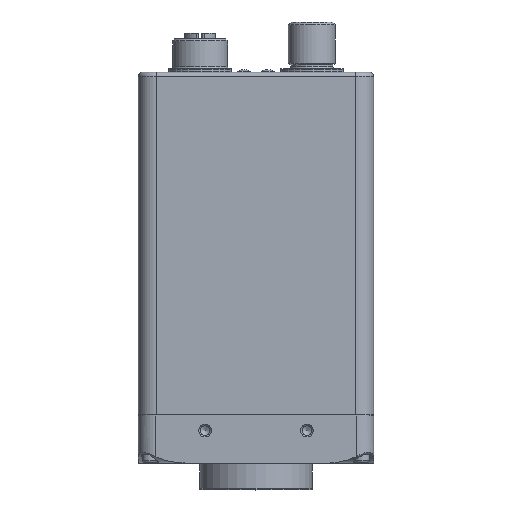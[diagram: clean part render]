
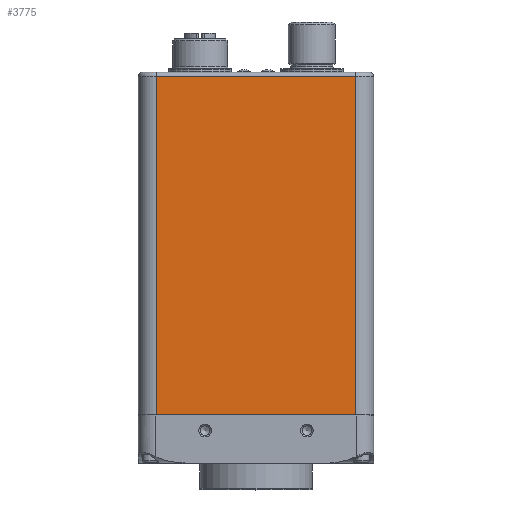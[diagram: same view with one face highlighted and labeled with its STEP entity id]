
A CAD part, top view. The second image highlights one B-rep face of the part: STEP entity #3775.
In plain terms, the highlighted planar face has unit normal (0, 0, 1).
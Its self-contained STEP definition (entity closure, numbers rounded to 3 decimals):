
#3775 = ADVANCED_FACE( '', ( #8386 ), #8387, .F. );
#8386 = FACE_OUTER_BOUND( '', #14684, .T. );
#8387 = PLANE( '', #14685 );
#14684 = EDGE_LOOP( '', ( #25927, #25928, #25929, #25930 ) );
#14685 = AXIS2_PLACEMENT_3D( '', #25931, #25932, #25933 );
#25927 = ORIENTED_EDGE( '', *, *, #32807, .F. );
#25928 = ORIENTED_EDGE( '', *, *, #32511, .T. );
#25929 = ORIENTED_EDGE( '', *, *, #30702, .T. );
#25930 = ORIENTED_EDGE( '', *, *, #32808, .T. );
#25931 = CARTESIAN_POINT( '', ( -25.488, 87.375, 29.988 ) );
#25932 = DIRECTION( '', ( 0., 0., -1. ) );
#25933 = DIRECTION( '', ( 0., 1., 0. ) );
#30702 = EDGE_CURVE( '', #36198, #36199, #36200, .T. );
#32511 = EDGE_CURVE( '', #38733, #36198, #38734, .F. );
#32807 = EDGE_CURVE( '', #38733, #39083, #39084, .T. );
#32808 = EDGE_CURVE( '', #36199, #39083, #39085, .T. );
#36198 = VERTEX_POINT( '', #44990 );
#36199 = VERTEX_POINT( '', #44991 );
#36200 = LINE( '', #44992, #44993 );
#38733 = VERTEX_POINT( '', #49085 );
#38734 = LINE( '', #49086, #49087 );
#39083 = VERTEX_POINT( '', #49621 );
#39084 = LINE( '', #49622, #49623 );
#39085 = LINE( '', #49624, #49625 );
#44990 = CARTESIAN_POINT( '', ( -25.488, 86.375, 29.988 ) );
#44991 = CARTESIAN_POINT( '', ( -25.488, 0.075, 29.988 ) );
#44992 = CARTESIAN_POINT( '', ( -25.488, 87.375, 29.988 ) );
#44993 = VECTOR( '', #53008, 1000. );
#49085 = CARTESIAN_POINT( '', ( 25.488, 86.375, 29.988 ) );
#49086 = CARTESIAN_POINT( '', ( -25.488, 86.375, 29.988 ) );
#49087 = VECTOR( '', #55167, 1000. );
#49621 = CARTESIAN_POINT( '', ( 25.488, 0.075, 29.988 ) );
#49622 = CARTESIAN_POINT( '', ( 25.488, 87.375, 29.988 ) );
#49623 = VECTOR( '', #55435, 1000. );
#49624 = CARTESIAN_POINT( '', ( -25.488, 0.075, 29.988 ) );
#49625 = VECTOR( '', #55436, 1000. );
#53008 = DIRECTION( '', ( 0., -1., 0. ) );
#55167 = DIRECTION( '', ( 1., 0., 0. ) );
#55435 = DIRECTION( '', ( 0., -1., 0. ) );
#55436 = DIRECTION( '', ( 1., 0., 0. ) );
